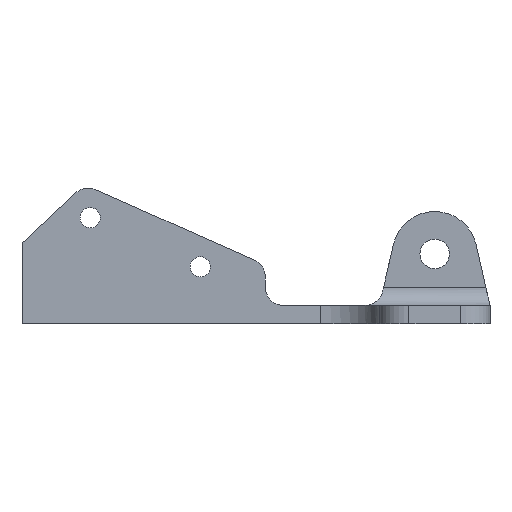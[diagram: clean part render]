
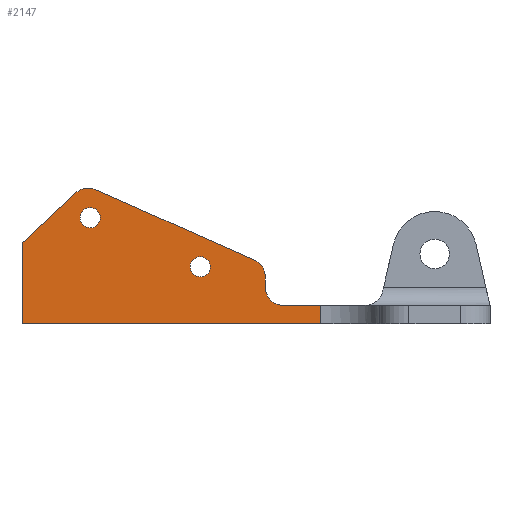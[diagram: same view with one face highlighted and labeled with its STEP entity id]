
A CAD part, front view. The second image highlights one B-rep face of the part: STEP entity #2147.
In plain terms, the highlighted planar face has unit normal (0, -1, 0).
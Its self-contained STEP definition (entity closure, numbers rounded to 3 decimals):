
#356=CARTESIAN_POINT('Vertex',(-66.356,17.8,15.519)) ;
#361=CARTESIAN_POINT('Axis2P3D Location',(-63.606,17.8,15.519)) ;
#365=CARTESIAN_POINT('Vertex',(-60.856,17.8,15.519)) ;
#387=CARTESIAN_POINT('Axis2P3D Location',(-63.606,17.8,15.519)) ;
#408=CARTESIAN_POINT('Vertex',(-96.252,17.8,28.83)) ;
#413=CARTESIAN_POINT('Axis2P3D Location',(-93.502,17.8,28.83)) ;
#417=CARTESIAN_POINT('Vertex',(-90.752,17.8,28.83)) ;
#439=CARTESIAN_POINT('Axis2P3D Location',(-93.502,17.8,28.83)) ;
#686=CARTESIAN_POINT('Vertex',(-112.,17.8,0.)) ;
#689=CARTESIAN_POINT('Line Origine',(-112.,17.8,11.)) ;
#693=CARTESIAN_POINT('Vertex',(-112.,17.8,22.)) ;
#1668=CARTESIAN_POINT('Vertex',(-41.,17.8,5.)) ;
#1682=CARTESIAN_POINT('Vertex',(-46.,17.8,10.)) ;
#1685=CARTESIAN_POINT('Axis2P3D Location',(-41.,17.8,10.)) ;
#1708=CARTESIAN_POINT('Vertex',(-46.,17.8,12.753)) ;
#1711=CARTESIAN_POINT('Line Origine',(-46.,17.8,11.376)) ;
#1733=CARTESIAN_POINT('Axis2P3D Location',(-51.,17.8,12.753)) ;
#1737=CARTESIAN_POINT('Vertex',(-48.966,17.8,17.321)) ;
#2018=CARTESIAN_POINT('Vertex',(-97.42,17.8,35.565)) ;
#2026=CARTESIAN_POINT('Line Origine',(-104.71,17.8,28.782)) ;
#2038=CARTESIAN_POINT('Line Origine',(-70.473,17.8,26.896)) ;
#2042=CARTESIAN_POINT('Vertex',(-91.98,17.8,36.472)) ;
#2098=CARTESIAN_POINT('Axis2P3D Location',(-112.,17.8,0.)) ;
#2103=CARTESIAN_POINT('Line Origine',(-71.5,17.8,0.)) ;
#2107=CARTESIAN_POINT('Vertex',(-31.,17.8,0.)) ;
#2110=CARTESIAN_POINT('Line Origine',(-31.,17.8,2.5)) ;
#2114=CARTESIAN_POINT('Vertex',(-31.,17.8,5.)) ;
#2117=CARTESIAN_POINT('Line Origine',(-36.,17.8,5.)) ;
#2122=CARTESIAN_POINT('Axis2P3D Location',(-94.014,17.8,31.904)) ;
#362=DIRECTION('Axis2P3D Direction',(0.,1.,0.)) ;
#388=DIRECTION('Axis2P3D Direction',(0.,1.,0.)) ;
#414=DIRECTION('Axis2P3D Direction',(0.,1.,0.)) ;
#440=DIRECTION('Axis2P3D Direction',(0.,1.,0.)) ;
#690=DIRECTION('Vector Direction',(0.,0.,1.)) ;
#1686=DIRECTION('Axis2P3D Direction',(0.,-1.,0.)) ;
#1712=DIRECTION('Vector Direction',(0.,0.,1.)) ;
#1734=DIRECTION('Axis2P3D Direction',(0.,-1.,0.)) ;
#2027=DIRECTION('Vector Direction',(0.732,0.,0.681)) ;
#2039=DIRECTION('Vector Direction',(-0.914,0.,0.407)) ;
#2099=DIRECTION('Axis2P3D Direction',(0.,-1.,0.)) ;
#2100=DIRECTION('Axis2P3D XDirection',(1.,0.,0.)) ;
#2104=DIRECTION('Vector Direction',(1.,0.,0.)) ;
#2111=DIRECTION('Vector Direction',(0.,0.,1.)) ;
#2118=DIRECTION('Vector Direction',(1.,0.,0.)) ;
#2123=DIRECTION('Axis2P3D Direction',(0.,-1.,0.)) ;
#363=AXIS2_PLACEMENT_3D('Circle Axis2P3D',#361,#362,$) ;
#389=AXIS2_PLACEMENT_3D('Circle Axis2P3D',#387,#388,$) ;
#415=AXIS2_PLACEMENT_3D('Circle Axis2P3D',#413,#414,$) ;
#441=AXIS2_PLACEMENT_3D('Circle Axis2P3D',#439,#440,$) ;
#1687=AXIS2_PLACEMENT_3D('Circle Axis2P3D',#1685,#1686,$) ;
#1735=AXIS2_PLACEMENT_3D('Circle Axis2P3D',#1733,#1734,$) ;
#2101=AXIS2_PLACEMENT_3D('Plane Axis2P3D',#2098,#2099,#2100) ;
#2124=AXIS2_PLACEMENT_3D('Circle Axis2P3D',#2122,#2123,$) ;
#2128=ORIENTED_EDGE('',*,*,#2030,.F.) ;
#2129=ORIENTED_EDGE('',*,*,#695,.F.) ;
#2130=ORIENTED_EDGE('',*,*,#2109,.T.) ;
#2131=ORIENTED_EDGE('',*,*,#2116,.T.) ;
#2132=ORIENTED_EDGE('',*,*,#2121,.F.) ;
#2133=ORIENTED_EDGE('',*,*,#1689,.T.) ;
#2134=ORIENTED_EDGE('',*,*,#1715,.T.) ;
#2135=ORIENTED_EDGE('',*,*,#1739,.F.) ;
#2136=ORIENTED_EDGE('',*,*,#2044,.T.) ;
#2137=ORIENTED_EDGE('',*,*,#2126,.F.) ;
#2140=ORIENTED_EDGE('',*,*,#419,.T.) ;
#2141=ORIENTED_EDGE('',*,*,#443,.T.) ;
#2144=ORIENTED_EDGE('',*,*,#391,.T.) ;
#2145=ORIENTED_EDGE('',*,*,#367,.T.) ;
#2142=FACE_BOUND('',#2139,.T.) ;
#2146=FACE_BOUND('',#2143,.T.) ;
#691=VECTOR('Line Direction',#690,1.) ;
#1713=VECTOR('Line Direction',#1712,1.) ;
#2028=VECTOR('Line Direction',#2027,1.) ;
#2040=VECTOR('Line Direction',#2039,1.) ;
#2105=VECTOR('Line Direction',#2104,1.) ;
#2112=VECTOR('Line Direction',#2111,1.) ;
#2119=VECTOR('Line Direction',#2118,1.) ;
#2147=ADVANCED_FACE('MAIN',(#2138,#2142,#2146),#2102,.T.) ;
#364=CIRCLE('generated circle',#363,2.75) ;
#390=CIRCLE('generated circle',#389,2.75) ;
#416=CIRCLE('generated circle',#415,2.75) ;
#442=CIRCLE('generated circle',#441,2.75) ;
#1688=CIRCLE('generated circle',#1687,5.) ;
#1736=CIRCLE('generated circle',#1735,5.) ;
#2125=CIRCLE('generated circle',#2124,5.) ;
#367=EDGE_CURVE('',#366,#357,#364,.T.) ;
#391=EDGE_CURVE('',#357,#366,#390,.T.) ;
#419=EDGE_CURVE('',#418,#409,#416,.T.) ;
#443=EDGE_CURVE('',#409,#418,#442,.T.) ;
#695=EDGE_CURVE('',#687,#694,#692,.T.) ;
#1689=EDGE_CURVE('',#1669,#1683,#1688,.F.) ;
#1715=EDGE_CURVE('',#1683,#1709,#1714,.T.) ;
#1739=EDGE_CURVE('',#1738,#1709,#1736,.F.) ;
#2030=EDGE_CURVE('',#694,#2019,#2029,.T.) ;
#2044=EDGE_CURVE('',#1738,#2043,#2041,.T.) ;
#2109=EDGE_CURVE('',#687,#2108,#2106,.T.) ;
#2116=EDGE_CURVE('',#2108,#2115,#2113,.T.) ;
#2121=EDGE_CURVE('',#1669,#2115,#2120,.T.) ;
#2126=EDGE_CURVE('',#2019,#2043,#2125,.F.) ;
#2127=EDGE_LOOP('',(#2128,#2129,#2130,#2131,#2132,#2133,#2134,#2135,#2136,#2137)) ;
#2139=EDGE_LOOP('',(#2140,#2141)) ;
#2143=EDGE_LOOP('',(#2144,#2145)) ;
#2138=FACE_OUTER_BOUND('',#2127,.T.) ;
#692=LINE('Line',#689,#691) ;
#1714=LINE('Line',#1711,#1713) ;
#2029=LINE('Line',#2026,#2028) ;
#2041=LINE('Line',#2038,#2040) ;
#2106=LINE('Line',#2103,#2105) ;
#2113=LINE('Line',#2110,#2112) ;
#2120=LINE('Line',#2117,#2119) ;
#2102=PLANE('',#2101) ;
#357=VERTEX_POINT('',#356) ;
#366=VERTEX_POINT('',#365) ;
#409=VERTEX_POINT('',#408) ;
#418=VERTEX_POINT('',#417) ;
#687=VERTEX_POINT('',#686) ;
#694=VERTEX_POINT('',#693) ;
#1669=VERTEX_POINT('',#1668) ;
#1683=VERTEX_POINT('',#1682) ;
#1709=VERTEX_POINT('',#1708) ;
#1738=VERTEX_POINT('',#1737) ;
#2019=VERTEX_POINT('',#2018) ;
#2043=VERTEX_POINT('',#2042) ;
#2108=VERTEX_POINT('',#2107) ;
#2115=VERTEX_POINT('',#2114) ;
